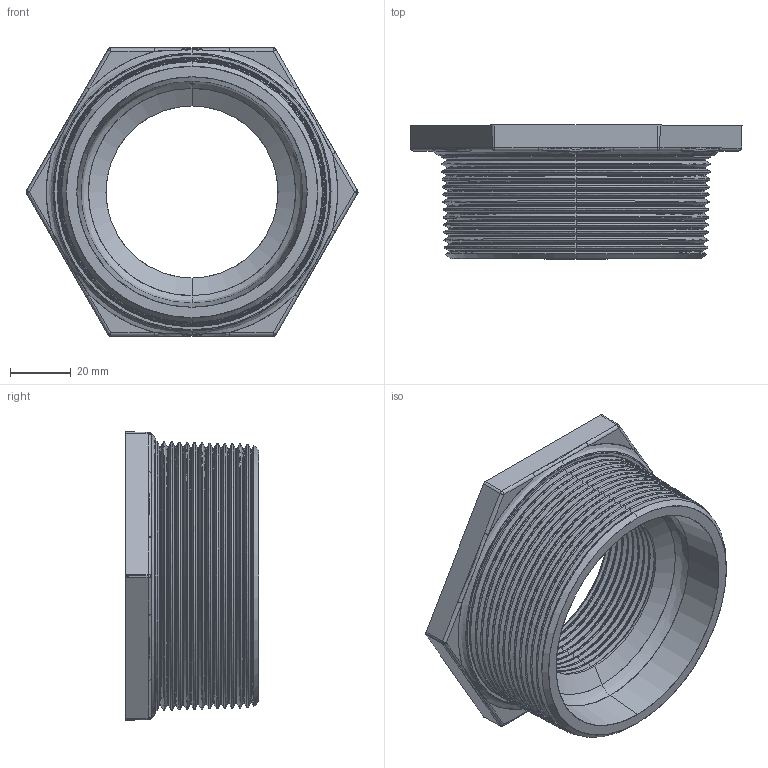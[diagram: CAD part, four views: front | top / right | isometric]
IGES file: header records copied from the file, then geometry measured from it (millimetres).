
Start section: SolidWorks IGES file using analytic representation for surfaces
Global section: file name: C:\Users\Joel Rosa\Desktop\Tubulação\12-01-OK\12-01-055.IGS; native system: SolidWorks 2011; preprocessor: SolidWorks 2011; author: Joel Rosa; date: 121203.200732; units: millimetre
Bounding box: 109.39 x 44 x 95 mm (x, y, z)
Surface area: 39083.1 mm2 (no closed solid volume)
Topology: 0 solids, 0 shells, 409 faces, 3378 edges, 3378 vertices
Faces by surface type: bspline 279, revolution 130
